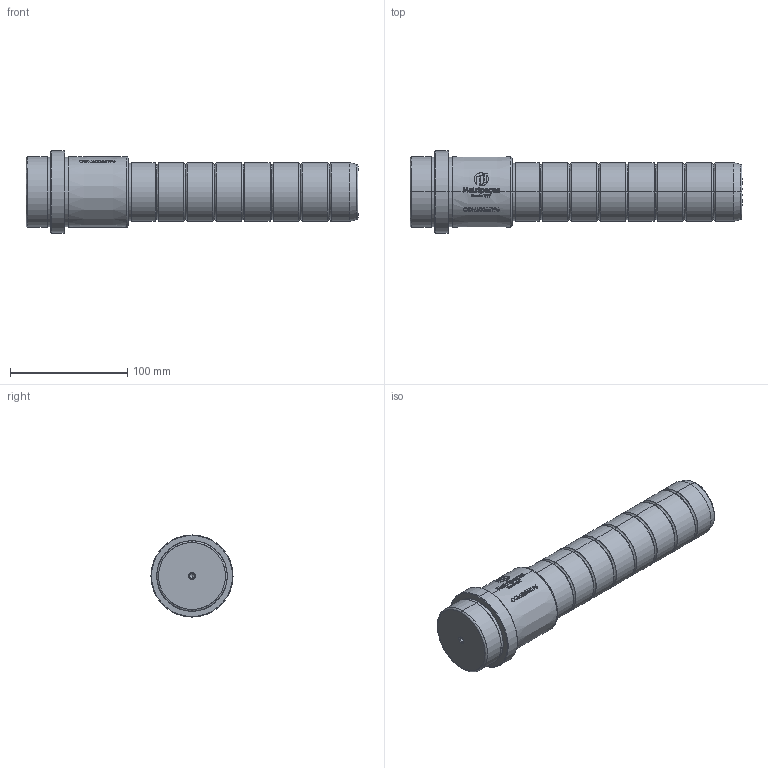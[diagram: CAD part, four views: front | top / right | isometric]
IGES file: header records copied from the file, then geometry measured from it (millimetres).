
Start section: SolidWorks IGES file using analytic representation for surfaces
Global section: file name: E:\1.TRIVECTOR\Clientes\MATRIPEÇAS\PEÇAS_CATALOGO_SITE\6.CGM - COLUNA PRINCIPAL TIPO GUIA (CATÁLOGO)\CGM50066196.IGS; native system: SolidWorks 2024; preprocessor: SolidWorks 2024; author: Gabriel Techio; date: 260911.150921; units: millimetre
Bounding box: 283 x 70 x 70 mm (x, y, z)
Surface area: 56940.7 mm2 (no closed solid volume)
Topology: 0 solids, 0 shells, 551 faces, 6554 edges, 6550 vertices
Faces by surface type: bspline 429, revolution 122
